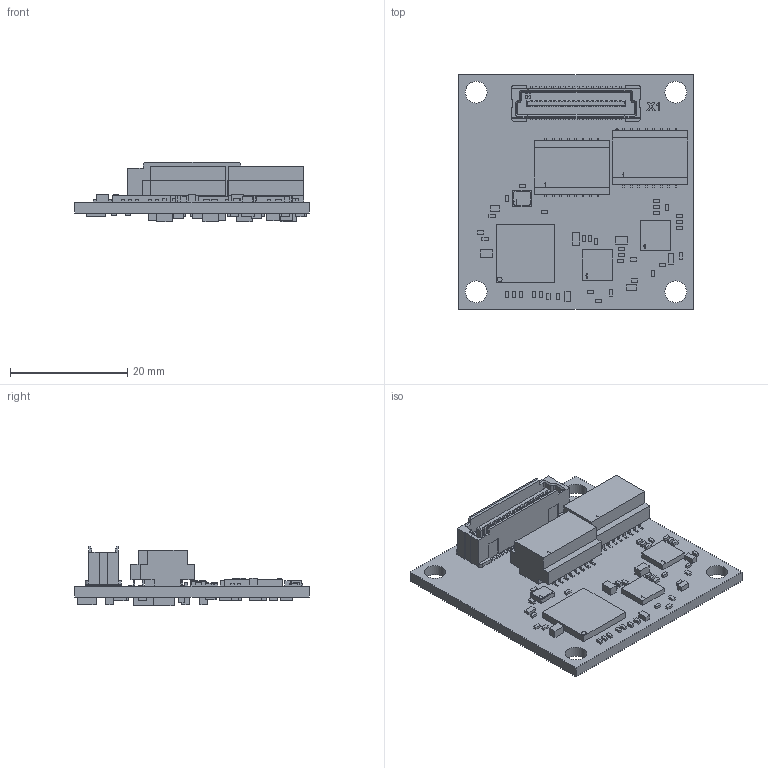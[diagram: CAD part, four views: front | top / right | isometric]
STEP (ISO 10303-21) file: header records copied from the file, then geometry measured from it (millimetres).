
FILE_DESCRIPTION(/* description */ (''),/* implementation_level */ '2;1');
FILE_NAME(/* name */ 'MC3001B _ET_ADDON.stp',/* time_stamp */ '2024-10-09T07:32:06+02:00',/* author */ ('DR. FRITZ FAULHABER GmbH & Co. KG'),/* organization */ ('DR. FRITZ FAULHABER GmbH & Co. KG'),/* preprocessor_version */ 'ST-DEVELOPER v19.3',/* originating_system */ 'SIEMENS PLM Software NX2212.4000',/* authorisation */ '');
FILE_SCHEMA (('AUTOMOTIVE_DESIGN { 1 0 10303 214 3 1 1 1 }'));
Length unit declared in the file: millimetre
Products named in the file (1): B_objects
Bounding box: 40 x 40 x 10.07 mm (x, y, z)
Volume: 4860.7 mm3; surface area: 5909.2 mm2
Topology: 1 solids, 1 shells, 1588 faces, 4367 edges, 2800 vertices
Faces by surface type: plane 1541, cylinder 26, cone 17, extrusion 2, sphere 1, bspline 1
Full cylindrical faces by diameter (mm): 0.4 x1, 0.7 x1, 0.8 x2, 1.1 x1, 1.2 x1, 3.7 x4
Entity records: 49414 total; most frequent: CARTESIAN_POINT 8893, ORIENTED_EDGE 8690, DIRECTION 7547, EDGE_CURVE 4345, VECTOR 4233, LINE 4231, VERTEX_POINT 2791, EDGE_LOOP 1776
